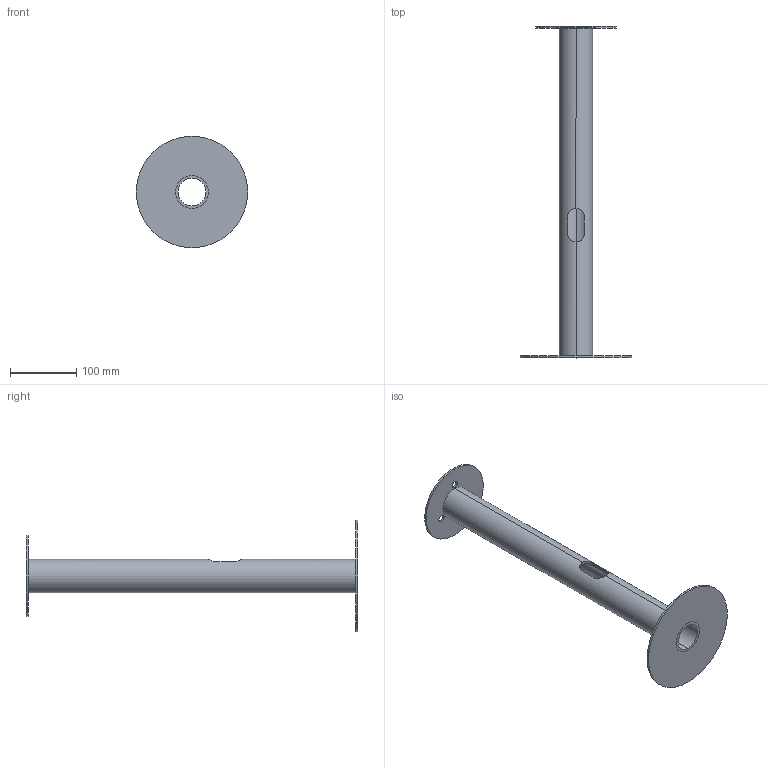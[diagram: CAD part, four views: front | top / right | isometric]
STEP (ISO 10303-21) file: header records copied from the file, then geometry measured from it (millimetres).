
FILE_DESCRIPTION (( 'STEP AP203' ), '1' );
FILE_NAME ('206GA0010.STEP', '2020-07-10T06:19:12', ( '' ), ( '' ), 'SwSTEP 2.0', 'SolidWorks 2019', '' );
FILE_SCHEMA (( 'CONFIG_CONTROL_DESIGN' ));
Length unit declared in the file: millimetre
Products named in the file (4): Blacha górna; 206GA0010; Blacha dolna; Rura
Assembly tree (3 placements, depth 2):
  206GA0010
    Rura
    Blacha górna
    Blacha dolna
Bounding box: 168 x 500 x 168 mm (x, y, z)
Volume: 373270.1 mm3; surface area: 207179.1 mm2
Topology: 3 solids, 3 shells, 28 faces, 72 edges, 48 vertices
Faces by surface type: cylinder 20, plane 8
Entity records: 1502 total; most frequent: CARTESIAN_POINT 358, DIRECTION 168, ORIENTED_EDGE 144, EDGE_CURVE 72, AXIS2_PLACEMENT_3D 70, VERTEX_POINT 48, EDGE_LOOP 40, CIRCLE 36
